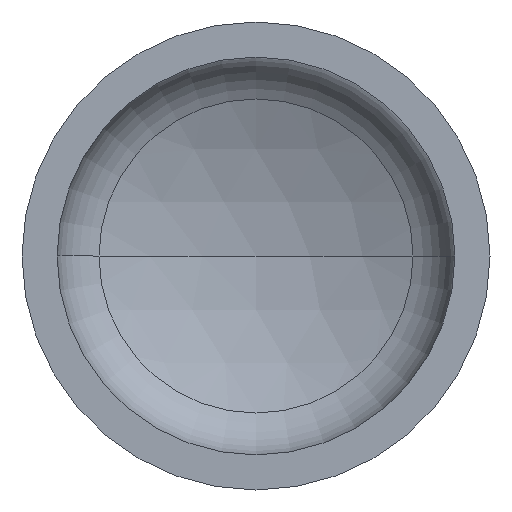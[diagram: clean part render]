
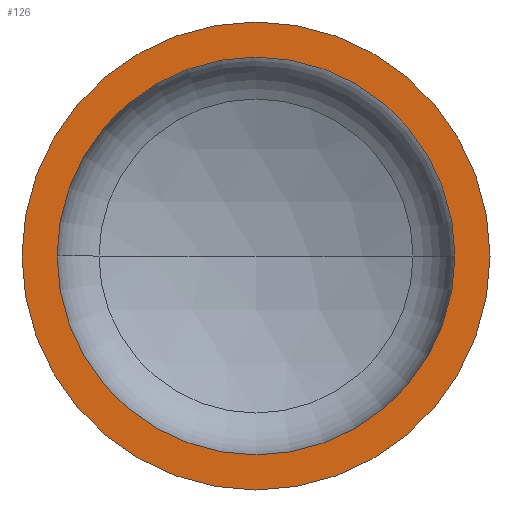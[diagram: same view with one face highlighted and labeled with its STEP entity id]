
A CAD part, front view. The second image highlights one B-rep face of the part: STEP entity #126.
In plain terms, the highlighted planar face has unit normal (0, -1, 0).
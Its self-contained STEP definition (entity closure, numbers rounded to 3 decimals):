
#4 = VERTEX_POINT ( 'NONE', #240 ) ;
#10 = AXIS2_PLACEMENT_3D ( 'NONE', #111, #80, #113 ) ;
#12 = EDGE_LOOP ( 'NONE', ( #102, #17 ) ) ;
#17 = ORIENTED_EDGE ( 'NONE', *, *, #387, .T. ) ;
#21 = VERTEX_POINT ( 'NONE', #283 ) ;
#23 = ORIENTED_EDGE ( 'NONE', *, *, #269, .F. ) ;
#43 = EDGE_LOOP ( 'NONE', ( #65, #23 ) ) ;
#52 = VERTEX_POINT ( 'NONE', #376 ) ;
#61 = CARTESIAN_POINT ( 'NONE',  ( 0., 0., 0. ) ) ;
#65 = ORIENTED_EDGE ( 'NONE', *, *, #372, .F. ) ;
#77 = CIRCLE ( 'NONE', #101, 510. ) ;
#80 = DIRECTION ( 'NONE',  ( 0., -1., 0. ) ) ;
#86 = AXIS2_PLACEMENT_3D ( 'NONE', #354, #150, #398 ) ;
#90 = VERTEX_POINT ( 'NONE', #225 ) ;
#101 = AXIS2_PLACEMENT_3D ( 'NONE', #394, #393, #392 ) ;
#102 = ORIENTED_EDGE ( 'NONE', *, *, #357, .T. ) ;
#111 = CARTESIAN_POINT ( 'NONE',  ( 0., 0., 0. ) ) ;
#113 = DIRECTION ( 'NONE',  ( 1., 0., 0. ) ) ;
#126 = ADVANCED_FACE ( 'NONE', ( #143, #349 ), #345, .F. ) ;
#143 = FACE_BOUND ( 'NONE', #43, .T. ) ;
#147 = CIRCLE ( 'NONE', #272, 600. ) ;
#150 = DIRECTION ( 'NONE',  ( 0., -1., 0. ) ) ;
#186 = AXIS2_PLACEMENT_3D ( 'NONE', #346, #341, #335 ) ;
#225 = CARTESIAN_POINT ( 'NONE',  ( 510., 0., 0. ) ) ;
#240 = CARTESIAN_POINT ( 'NONE',  ( -510., 0., 0. ) ) ;
#247 = DIRECTION ( 'NONE',  ( 1., 0., 0. ) ) ;
#269 = EDGE_CURVE ( 'NONE', #4, #90, #77, .T. ) ;
#272 = AXIS2_PLACEMENT_3D ( 'NONE', #61, #292, #247 ) ;
#283 = CARTESIAN_POINT ( 'NONE',  ( 600., 0., 0. ) ) ;
#292 = DIRECTION ( 'NONE',  ( 0., -1., 0. ) ) ;
#299 = CIRCLE ( 'NONE', #86, 600. ) ;
#335 = DIRECTION ( 'NONE',  ( -1., 0., 0. ) ) ;
#341 = DIRECTION ( 'NONE',  ( 0., 1., 0. ) ) ;
#345 = PLANE ( 'NONE',  #186 ) ;
#346 = CARTESIAN_POINT ( 'NONE',  ( -600., 0., 0. ) ) ;
#349 = FACE_OUTER_BOUND ( 'NONE', #12, .T. ) ;
#351 = CIRCLE ( 'NONE', #10, 510. ) ;
#354 = CARTESIAN_POINT ( 'NONE',  ( 0., 0., 0. ) ) ;
#357 = EDGE_CURVE ( 'NONE', #21, #52, #299, .T. ) ;
#372 = EDGE_CURVE ( 'NONE', #90, #4, #351, .T. ) ;
#376 = CARTESIAN_POINT ( 'NONE',  ( -600., 0., 0. ) ) ;
#387 = EDGE_CURVE ( 'NONE', #52, #21, #147, .T. ) ;
#392 = DIRECTION ( 'NONE',  ( 1., 0., 0. ) ) ;
#393 = DIRECTION ( 'NONE',  ( 0., -1., 0. ) ) ;
#394 = CARTESIAN_POINT ( 'NONE',  ( 0., 0., 0. ) ) ;
#398 = DIRECTION ( 'NONE',  ( 1., 0., 0. ) ) ;
